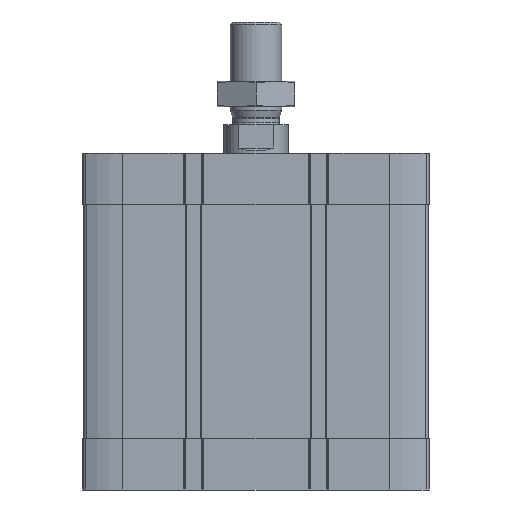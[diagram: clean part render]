
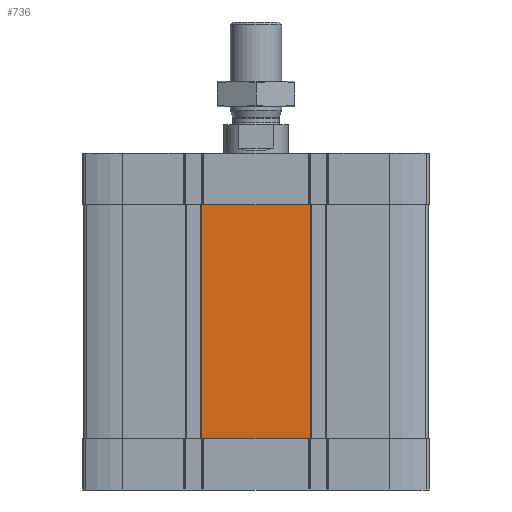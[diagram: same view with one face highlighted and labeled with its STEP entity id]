
A CAD part, front view. The second image highlights one B-rep face of the part: STEP entity #736.
In plain terms, the highlighted planar face has unit normal (0, -1, 0).
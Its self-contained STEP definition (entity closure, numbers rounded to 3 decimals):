
#493 = DIRECTION ( 'NONE',  ( 1., 0., 0. ) ) ;
#736 = ADVANCED_FACE ( 'NONE', ( #4959 ), #7621, .T. ) ;
#899 = CARTESIAN_POINT ( 'NONE',  ( -67., -67., -111. ) ) ;
#900 = CARTESIAN_POINT ( 'NONE',  ( -67., -67., -20. ) ) ;
#924 = EDGE_CURVE ( 'NONE', #11348, #10351, #2383, .T. ) ;
#1146 = CARTESIAN_POINT ( 'NONE',  ( -21.3, -67., -20. ) ) ;
#1333 = ORIENTED_EDGE ( 'NONE', *, *, #9489, .T. ) ;
#1661 = CARTESIAN_POINT ( 'NONE',  ( 21.3, -67., -111. ) ) ;
#2010 = CARTESIAN_POINT ( 'NONE',  ( -21.3, -67., -111. ) ) ;
#2222 = EDGE_LOOP ( 'NONE', ( #6583, #11457, #4838, #1333, #11949, #5682, #14662, #15477 ) ) ;
#2383 = LINE ( 'NONE', #7985, #5409 ) ;
#2481 = VERTEX_POINT ( 'NONE', #16310 ) ;
#2588 = LINE ( 'NONE', #8198, #8953 ) ;
#3229 = CARTESIAN_POINT ( 'NONE',  ( 20.687, -67., -111. ) ) ;
#3574 = DIRECTION ( 'NONE',  ( 1., 0., 0. ) ) ;
#3836 = LINE ( 'NONE', #900, #15726 ) ;
#3854 = DIRECTION ( 'NONE',  ( 1., 0., 0. ) ) ;
#4838 = ORIENTED_EDGE ( 'NONE', *, *, #11294, .T. ) ;
#4868 = DIRECTION ( 'NONE',  ( 0., -1., 0. ) ) ;
#4959 = FACE_OUTER_BOUND ( 'NONE', #2222, .T. ) ;
#5409 = VECTOR ( 'NONE', #3854, 1000. ) ;
#5549 = DIRECTION ( 'NONE',  ( 1., 0., 0. ) ) ;
#5682 = ORIENTED_EDGE ( 'NONE', *, *, #924, .F. ) ;
#6311 = CARTESIAN_POINT ( 'NONE',  ( 20.687, -67., -20. ) ) ;
#6583 = ORIENTED_EDGE ( 'NONE', *, *, #16308, .F. ) ;
#6756 = VECTOR ( 'NONE', #16143, 1000. ) ;
#6786 = CARTESIAN_POINT ( 'NONE',  ( -21.3, -67., -20. ) ) ;
#6981 = LINE ( 'NONE', #2010, #9474 ) ;
#7010 = EDGE_CURVE ( 'NONE', #11911, #10351, #13048, .T. ) ;
#7435 = VERTEX_POINT ( 'NONE', #15856 ) ;
#7621 = PLANE ( 'NONE',  #11973 ) ;
#7985 = CARTESIAN_POINT ( 'NONE',  ( -67., -67., -20. ) ) ;
#8176 = CARTESIAN_POINT ( 'NONE',  ( -21.3, -67., -111. ) ) ;
#8198 = CARTESIAN_POINT ( 'NONE',  ( -21.3, -67., -111. ) ) ;
#8953 = VECTOR ( 'NONE', #13788, 1000. ) ;
#9158 = EDGE_CURVE ( 'NONE', #15017, #2481, #12288, .T. ) ;
#9474 = VECTOR ( 'NONE', #3574, 1000. ) ;
#9489 = EDGE_CURVE ( 'NONE', #9780, #11911, #17460, .T. ) ;
#9780 = VERTEX_POINT ( 'NONE', #3229 ) ;
#10351 = VERTEX_POINT ( 'NONE', #15232 ) ;
#11294 = EDGE_CURVE ( 'NONE', #2481, #9780, #6981, .T. ) ;
#11348 = VERTEX_POINT ( 'NONE', #6311 ) ;
#11457 = ORIENTED_EDGE ( 'NONE', *, *, #9158, .T. ) ;
#11911 = VERTEX_POINT ( 'NONE', #13908 ) ;
#11949 = ORIENTED_EDGE ( 'NONE', *, *, #7010, .T. ) ;
#11973 = AXIS2_PLACEMENT_3D ( 'NONE', #17432, #4868, #15978 ) ;
#12288 = LINE ( 'NONE', #899, #6756 ) ;
#12350 = VECTOR ( 'NONE', #493, 1000. ) ;
#12446 = LINE ( 'NONE', #1146, #15461 ) ;
#12866 = DIRECTION ( 'NONE',  ( 0., 0., 1. ) ) ;
#13048 = LINE ( 'NONE', #1661, #15396 ) ;
#13071 = CARTESIAN_POINT ( 'NONE',  ( -67., -67., -111. ) ) ;
#13746 = DIRECTION ( 'NONE',  ( 1., 0., 0. ) ) ;
#13788 = DIRECTION ( 'NONE',  ( 0., 0., 1. ) ) ;
#13908 = CARTESIAN_POINT ( 'NONE',  ( 21.3, -67., -111. ) ) ;
#14662 = ORIENTED_EDGE ( 'NONE', *, *, #17826, .F. ) ;
#15017 = VERTEX_POINT ( 'NONE', #8176 ) ;
#15023 = VERTEX_POINT ( 'NONE', #6786 ) ;
#15232 = CARTESIAN_POINT ( 'NONE',  ( 21.3, -67., -20. ) ) ;
#15396 = VECTOR ( 'NONE', #12866, 1000. ) ;
#15461 = VECTOR ( 'NONE', #5549, 1000. ) ;
#15477 = ORIENTED_EDGE ( 'NONE', *, *, #17336, .F. ) ;
#15726 = VECTOR ( 'NONE', #13746, 1000. ) ;
#15856 = CARTESIAN_POINT ( 'NONE',  ( -20.687, -67., -20. ) ) ;
#15978 = DIRECTION ( 'NONE',  ( 0., 0., -1. ) ) ;
#16143 = DIRECTION ( 'NONE',  ( 1., 0., 0. ) ) ;
#16308 = EDGE_CURVE ( 'NONE', #15017, #15023, #2588, .T. ) ;
#16310 = CARTESIAN_POINT ( 'NONE',  ( -20.687, -67., -111. ) ) ;
#17336 = EDGE_CURVE ( 'NONE', #15023, #7435, #3836, .T. ) ;
#17432 = CARTESIAN_POINT ( 'NONE',  ( -67., -67., -111. ) ) ;
#17460 = LINE ( 'NONE', #13071, #12350 ) ;
#17826 = EDGE_CURVE ( 'NONE', #7435, #11348, #12446, .T. ) ;
